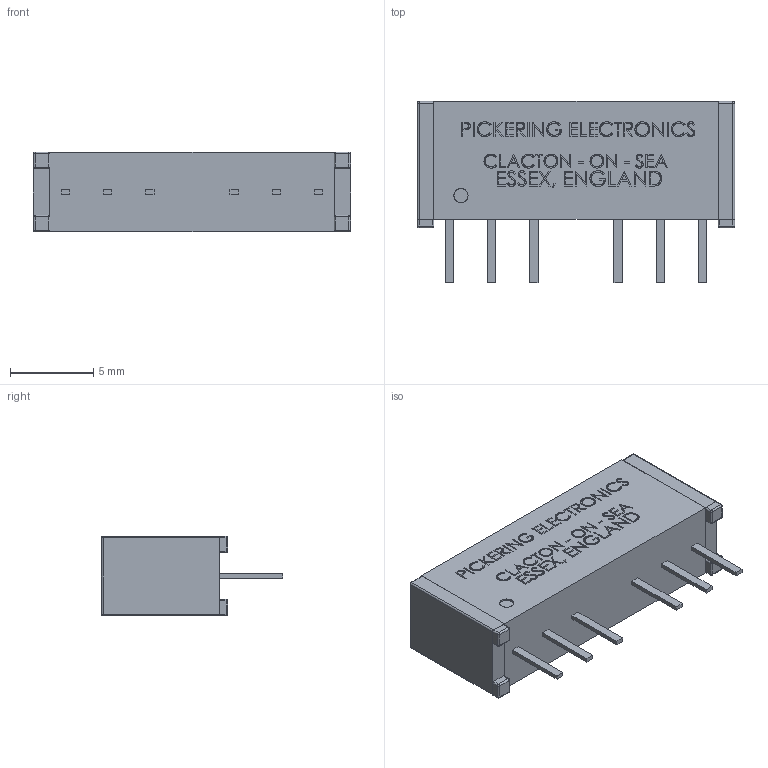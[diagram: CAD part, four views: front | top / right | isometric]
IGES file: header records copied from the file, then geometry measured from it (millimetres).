
Start section: SolidWorks IGES file using analytic representation for surfaces
Global section: file name: T:\Relays in Solidworks\Batch 2\102M-1-A.IGS; native system: SolidWorks 2009; preprocessor: SolidWorks 2009; author: alex.leming; date: 100629.141103; units: millimetre
Bounding box: 19.1 x 10.9 x 4.8 mm (x, y, z)
Surface area: 735.9 mm2 (no closed solid volume)
Topology: 0 solids, 0 shells, 1087 faces, 8828 edges, 8808 vertices
Faces by surface type: bspline 1023, revolution 64
